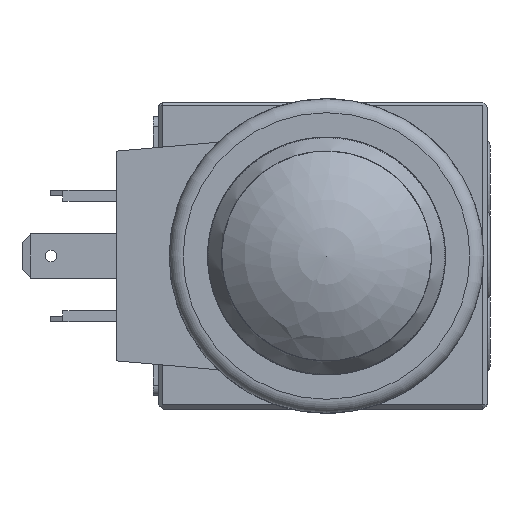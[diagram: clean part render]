
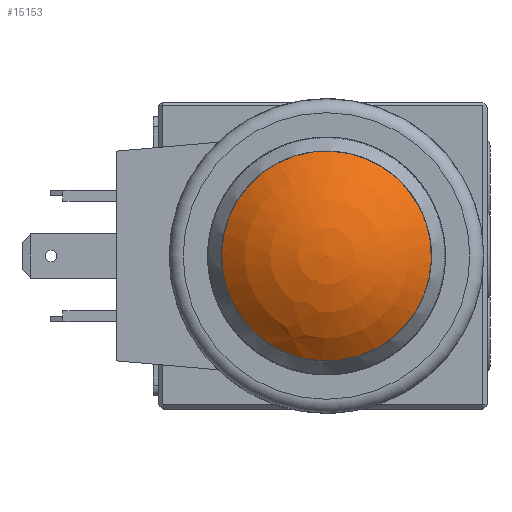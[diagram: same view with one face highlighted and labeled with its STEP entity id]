
A CAD part, left-side view. The second image highlights one B-rep face of the part: STEP entity #15153.
In plain terms, the highlighted spherical face has radius 22 mm.
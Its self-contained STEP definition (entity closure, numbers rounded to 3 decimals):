
#1802=SPHERICAL_SURFACE('',#109946,22.);
#5643=FACE_OUTER_BOUND('',#30861,.T.);
#10619=CIRCLE('',#109944,15.);
#15153=ADVANCED_FACE('',(#5643),#1802,.T.);
#30861=EDGE_LOOP('',(#54071));
#54071=ORIENTED_EDGE('',*,*,#84865,.F.);
#70911=VERTEX_POINT('',#183819);
#84865=EDGE_CURVE('',#70911,#70911,#10619,.T.);
#109944=AXIS2_PLACEMENT_3D('',#183818,#129158,#129159);
#109946=AXIS2_PLACEMENT_3D('',#183821,#129162,#129163);
#129158=DIRECTION('',(1.,0.,0.));
#129159=DIRECTION('',(0.,-0.924,-0.382));
#129162=DIRECTION('',(1.,0.,0.));
#129163=DIRECTION('',(0.,0.382,-0.924));
#183818=CARTESIAN_POINT('',(-19.767,171.761,0.));
#183819=CARTESIAN_POINT('',(-19.767,157.898,-5.728));
#183821=CARTESIAN_POINT('',(-3.674,171.761,0.));
